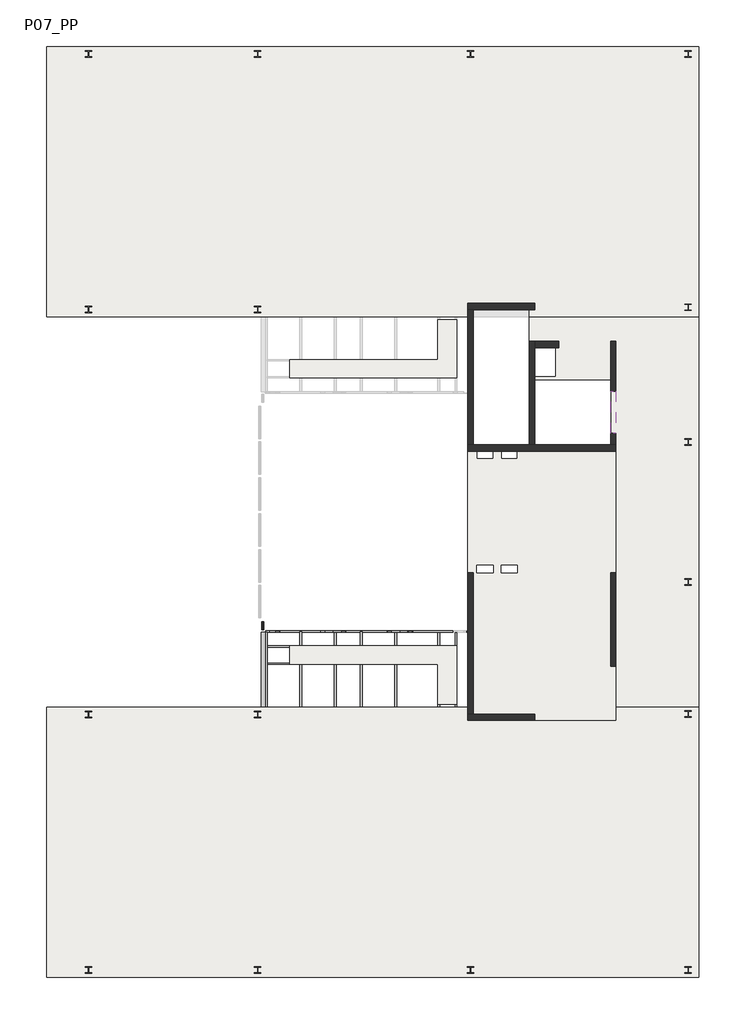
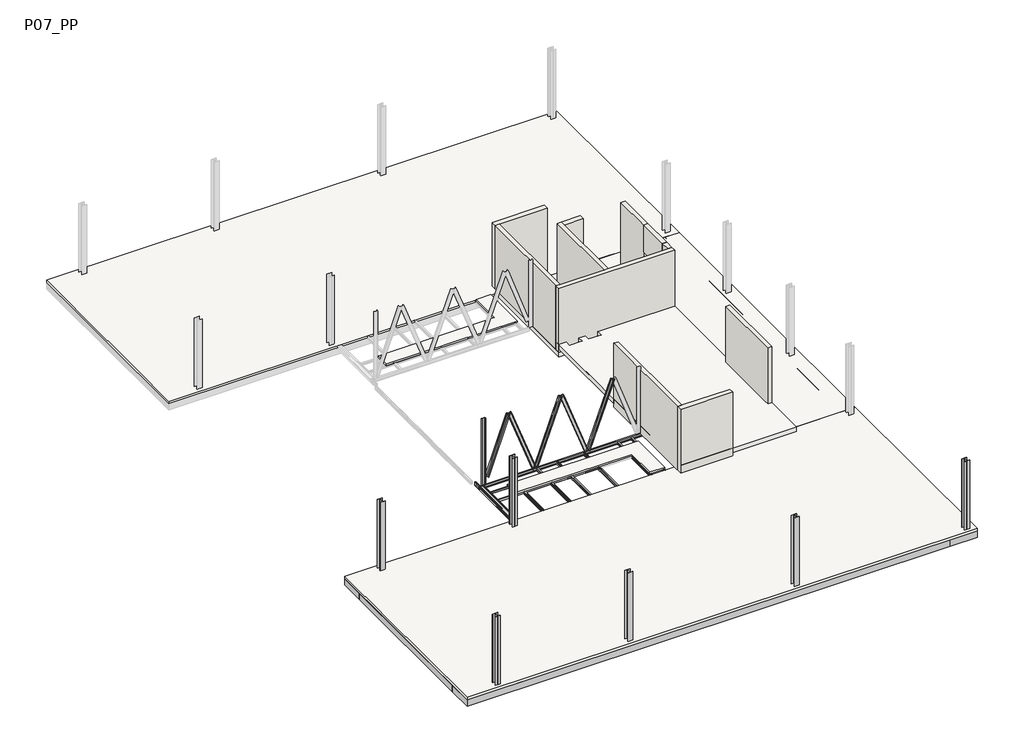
# One storey, part 1 of 2: 43 beams, 11 walls, 7 columns, 5 slabs.
"""IFC4 building model written with IfcOpenShell, lengths in millimetres."""

from ifc_helpers import new_model, si_unit, frame, origin, place, context, project, spatial, polyline, outline, extrude, faceted_brep, transform, mapped, element, save
from components import heb_180x180_772428e8, m_hss_rectangular_hss_200x100_80d761ef, ub_universal_beams_ipe_160x82_5295c27c, ub_universal_beams_ipe_160x82_633517aa, upn120x55_2e91fe93, upn120x55_dd576345, upn120x55_d7d90911, upn200x75_0a6f6e24, upn200x75_24fb99ba, upn200x75_a606ac6d, upn200x75_97ea6d6a, upn200x75_3677b2e3, uc_universal_columns_column_uc300x300x97_0dd95e36, upn_200x75_eb6b664d

model = new_model("IFC4")

# Units and contexts
model_context = context("Model", 3, world=origin())
ifc_project = project(units=[si_unit("LENGTHUNIT", "METRE", prefix="MILLI")], contexts=[model_context])

# Site, building, storey
site = spatial("IfcSite", under=ifc_project)
building = spatial("IfcBuilding", under=site)
storey = spatial("IfcBuildingStorey", under=building, Name="P07_PP", Elevation=33660.0)

# Beams
placement = place(None, origin())
heb_180x180_shape = heb_180x180_772428e8(model_context)
element("IfcBeam", 1, ObjectType="M_HP-Bearing Pile : HEB 180x180", at=placement, inside=storey, context=model_context, shape_type="MappedRepresentation", body=[
    mapped(heb_180x180_shape, transform((-23130.357866, -3177.0866476, 33570.0), x_axis=(0.0, -1.0, 0.0), y_axis=(1.0, 0.0, 0.0), z_axis=(0.0, 0.0, 1.0))),
])
element("IfcBeam", 2, ObjectType="M_Concrete-Rectangular Beam : 1500 x 550mm", at=placement, inside=storey, context=model_context, shape_type="Brep", body=[
    faceted_brep([(-33190.2931093, -6060.5861501, 33110.0), (-32490.2931093, -6060.5861501, 33110.0), (-31216.2708024, -6060.5861501, 33110.0), (-30816.2708024, -6060.5861501, 33110.0), (-29549.6041367, -6060.5861501, 33110.0), (-29149.6041367, -6060.5861501, 33110.0), (-27882.9374731, -6060.5861501, 33110.0), (-27482.9374731, -6060.5861501, 33110.0), (-26216.2708089, -6060.5861501, 33110.0), (-25816.2708089, -6060.5861501, 33110.0), (-24549.6041453, -6060.5861501, 33110.0), (-24149.6041453, -6060.5861501, 33110.0), (-22882.9374805, -6060.5861501, 33110.0), (-22482.9374805, -6060.5861501, 33110.0), (-21216.2708168, -6060.5861501, 33110.0), (-20816.2708168, -6060.5861501, 33110.0), (-19549.6041539, -6060.5861501, 33110.0), (-19149.6041539, -6060.5861501, 33110.0), (-17882.9374898, -6060.5861501, 33110.0), (-17482.9374898, -6060.5861501, 33110.0), (-16216.2708252, -6060.5861501, 33110.0), (-15816.2708252, -6060.5861501, 33110.0), (-14549.604161, -6060.5861501, 33110.0), (-14149.604161, -6060.5861501, 33110.0), (-12882.9374977, -6060.5861501, 33110.0), (-12482.9374977, -6060.5861501, 33110.0), (-11216.2708336, -6060.5861501, 33110.0), (-10816.2708336, -6060.5861501, 33110.0), (-9549.6041702, -6060.5861501, 33110.0), (-9149.6041702, -6060.5861501, 33110.0), (-7882.9375051, -6060.5861501, 33110.0), (-7482.9375051, -6060.5861501, 33110.0), (-6216.2708415, -6060.5861501, 33110.0), (-5816.2708415, -6060.5861501, 33110.0), (-4553.6343046, -6060.5861501, 33110.0), (-2913.6343046, -6060.5861501, 33110.0), (-2913.6343046, -6060.5861501, 33510.0), (-4553.6343046, -6060.5861501, 33510.0), (-5816.2708415, -6060.5861501, 33510.0), (-6216.2708415, -6060.5861501, 33510.0), (-7482.9375051, -6060.5861501, 33510.0), (-7882.9375051, -6060.5861501, 33510.0), (-9149.6041702, -6060.5861501, 33510.0), (-9549.6041702, -6060.5861501, 33510.0), (-10816.2708336, -6060.5861501, 33510.0), (-11216.2708336, -6060.5861501, 33510.0), (-12482.9374977, -6060.5861501, 33510.0), (-12882.9374977, -6060.5861501, 33510.0), (-14149.604161, -6060.5861501, 33510.0), (-14549.604161, -6060.5861501, 33510.0), (-15816.2708252, -6060.5861501, 33510.0), (-16216.2708252, -6060.5861501, 33510.0), (-17482.9374898, -6060.5861501, 33510.0), (-17882.9374898, -6060.5861501, 33510.0), (-19149.6041539, -6060.5861501, 33510.0), (-19549.6041539, -6060.5861501, 33510.0), (-20816.2708168, -6060.5861501, 33510.0), (-21216.2708168, -6060.5861501, 33510.0), (-22482.9374805, -6060.5861501, 33510.0), (-22882.9374805, -6060.5861501, 33510.0), (-24149.6041453, -6060.5861501, 33510.0), (-24549.6041453, -6060.5861501, 33510.0), (-25816.2708089, -6060.5861501, 33510.0), (-26216.2708089, -6060.5861501, 33510.0), (-27482.9374731, -6060.5861501, 33510.0), (-27882.9374731, -6060.5861501, 33510.0), (-29149.6041367, -6060.5861501, 33510.0), (-29549.6041367, -6060.5861501, 33510.0), (-30816.2708024, -6060.5861501, 33510.0), (-31216.2708024, -6060.5861501, 33510.0), (-32490.2931093, -6060.5861501, 33510.0), (-33190.2931093, -6060.5861501, 33510.0), (-33190.2931093, -4560.5861501, 33110.0), (-13640.3216429, -4560.5861501, 33110.0), (-13640.3216429, -5185.1039323, 33110.0), (-10540.3248425, -5185.1039323, 33110.0), (-10540.3248425, -4885.1039323, 33110.0), (-13390.3216429, -4885.1039323, 33110.0), (-13390.3216429, -4560.5861501, 33110.0), (-2913.6343046, -4560.5861501, 33110.0), (-3265.7676522, -5134.9151731, 33110.0), (-3265.767651, -4634.9151731, 33110.0), (-3765.767651, -4634.9151719, 33110.0), (-3765.7676522, -5134.9151719, 33110.0), (-23240.3175914, -5260.1050057, 33110.0), (-23240.3175881, -4760.1050057, 33110.0), (-23740.3175881, -4760.1050023, 33110.0), (-23740.3175914, -5260.1050023, 33110.0), (-30890.3595586, -5260.1050076, 33110.0), (-30890.359557, -4760.1050076, 33110.0), (-31390.359557, -4760.105006, 33110.0), (-31390.3595586, -5260.105006, 33110.0), (-13390.3216429, -4560.5861501, 33359.9777344), (-13640.3216429, -4560.5861501, 33359.9777344), (-33190.2931093, -4560.5861501, 33510.0), (-2913.6343046, -4560.5861501, 33510.0), (-2913.6343046, -4560.5861501, 33360.0), (-3265.7676522, -5134.9151731, 33360.0), (-3265.767651, -4634.9151731, 33360.0), (-3765.7676522, -5134.9151719, 33360.0), (-3765.767651, -4634.9151719, 33360.0), (-23240.3175914, -5260.1050057, 33360.0), (-23240.3175881, -4760.1050057, 33360.0), (-23740.3175914, -5260.1050023, 33360.0), (-23740.3175881, -4760.1050023, 33360.0), (-30890.3595586, -5260.1050076, 33360.0), (-30890.359557, -4760.1050076, 33360.0), (-31390.3595586, -5260.105006, 33360.0), (-31390.359557, -4760.105006, 33360.0), (-10540.3248425, -4885.1039323, 33359.9777344), (-13390.3216429, -4885.1039323, 33359.9777344), (-13640.3216429, -5185.1039323, 33359.9777344), (-10540.3248425, -5185.1039323, 33359.9777344), (-13640.3216429, -4885.1039323, 33359.9777344)], [[[0, 1, 2, 3, 4, 5, 6, 7, 8, 9, 10, 11, 12, 13, 14, 15, 16, 17, 18, 19, 20, 21, 22, 23, 24, 25, 26, 27, 28, 29, 30, 31, 32, 33, 34, 35, 36, 37, 38, 39, 40, 41, 42, 43, 44, 45, 46, 47, 48, 49, 50, 51, 52, 53, 54, 55, 56, 57, 58, 59, 60, 61, 62, 63, 64, 65, 66, 67, 68, 69, 70, 71]], [[0, 72, 73, 74, 75, 76, 77, 78, 79, 35, 34, 33, 32, 31, 30, 29, 28, 27, 26, 25, 24, 23, 22, 21, 20, 19, 18, 17, 16, 15, 14, 13, 12, 11, 10, 9, 8, 7, 6, 5, 4, 3, 2, 1], [80, 81, 82, 83], [84, 85, 86, 87], [88, 89, 90, 91]], [[79, 78, 92, 93, 73, 72, 94, 95, 96]], [[72, 0, 71, 94]], [[35, 79, 96, 95, 36]], [[97, 98, 81, 80]], [[99, 97, 80, 83]], [[100, 99, 83, 82]], [[98, 100, 82, 81]], [[98, 97, 99, 100]], [[101, 102, 85, 84]], [[103, 101, 84, 87]], [[104, 103, 87, 86]], [[102, 104, 86, 85]], [[102, 101, 103, 104]], [[105, 106, 89, 88]], [[107, 105, 88, 91]], [[108, 107, 91, 90]], [[106, 108, 90, 89]], [[106, 105, 107, 108]], [[76, 109, 110, 77]], [[111, 112, 75, 74]], [[112, 111, 113, 93, 92, 110, 109]], [[112, 109, 76, 75]], [[111, 74, 73, 93, 113]], [[110, 92, 78, 77]], [[71, 70, 69, 68, 67, 66, 65, 64, 63, 62, 61, 60, 59, 58, 57, 56, 55, 54, 53, 52, 51, 50, 49, 48, 47, 46, 45, 44, 43, 42, 41, 40, 39, 38, 37, 36, 95, 94]]]),
])
element("IfcBeam", 3, ObjectType="M_Concrete-Rectangular Beam : 1500 x 550mm", at=placement, inside=storey, context=model_context, shape_type="Brep", body=[
    faceted_brep([(-33190.2931093, -17110.5871866, 33110.0), (-4553.6343046, -17110.5871866, 33110.0), (-4553.6343046, -17110.5871866, 33510.0), (-33190.2931093, -17110.5871866, 33510.0), (-33190.2931093, -15610.5871866, 33110.0), (-32490.2931093, -15610.5871866, 33110.0), (-31216.2708024, -15610.5871866, 33110.0), (-30816.2708024, -15610.5871866, 33110.0), (-29549.6041367, -15610.5871866, 33110.0), (-29149.6041367, -15610.5871866, 33110.0), (-27882.9374731, -15610.5871866, 33110.0), (-27482.9374731, -15610.5871866, 33110.0), (-26216.2708089, -15610.5871866, 33110.0), (-25816.2708089, -15610.5871866, 33110.0), (-24549.6041453, -15610.5871866, 33110.0), (-24149.6041453, -15610.5871866, 33110.0), (-22882.9374805, -15610.5871866, 33110.0), (-22482.9374805, -15610.5871866, 33110.0), (-21216.2708168, -15610.5871866, 33110.0), (-20816.2708168, -15610.5871866, 33110.0), (-19549.6041539, -15610.5871866, 33110.0), (-19149.6041539, -15610.5871866, 33110.0), (-17882.9374898, -15610.5871866, 33110.0), (-17482.9374898, -15610.5871866, 33110.0), (-16216.2708252, -15610.5871866, 33110.0), (-15816.2708252, -15610.5871866, 33110.0), (-14549.604161, -15610.5871866, 33110.0), (-14149.604161, -15610.5871866, 33110.0), (-12882.9374977, -15610.5871866, 33110.0), (-12482.9374977, -15610.5871866, 33110.0), (-11216.2708336, -15610.5871866, 33110.0), (-10816.2708336, -15610.5871866, 33110.0), (-9549.6041702, -15610.5871866, 33110.0), (-9149.6041702, -15610.5871866, 33110.0), (-7882.9375051, -15610.5871866, 33110.0), (-7482.9375051, -15610.5871866, 33110.0), (-6216.2708415, -15610.5871866, 33110.0), (-5816.2708415, -15610.5871866, 33110.0), (-4553.6343046, -15610.5871866, 33110.0), (-13265.318426, -16910.1049686, 33110.0), (-13265.318425, -16410.1049686, 33110.0), (-13765.318425, -16410.1049676, 33110.0), (-13765.318426, -16910.1049676, 33110.0), (-23240.1750348, -16910.1046906, 33110.0), (-23240.1750292, -16410.1046906, 33110.0), (-23740.1750292, -16410.104685, 33110.0), (-23740.1750348, -16910.104685, 33110.0), (-30890.3104055, -16910.1054999, 33110.0), (-30890.3104022, -16410.1054999, 33110.0), (-31390.3104022, -16410.1054966, 33110.0), (-31390.3104055, -16910.1054966, 33110.0), (-33190.2931093, -15610.5871866, 33510.0), (-32490.2931093, -15610.5871866, 33510.0), (-31216.2708024, -15610.5871866, 33510.0), (-30816.2708024, -15610.5871866, 33510.0), (-29549.6041367, -15610.5871866, 33510.0), (-29149.6041367, -15610.5871866, 33510.0), (-27882.9374731, -15610.5871866, 33510.0), (-27482.9374731, -15610.5871866, 33510.0), (-26216.2708089, -15610.5871866, 33510.0), (-25816.2708089, -15610.5871866, 33510.0), (-24549.6041453, -15610.5871866, 33510.0), (-24149.6041453, -15610.5871866, 33510.0), (-22882.9374805, -15610.5871866, 33510.0), (-22482.9374805, -15610.5871866, 33510.0), (-21216.2708168, -15610.5871866, 33510.0), (-20816.2708168, -15610.5871866, 33510.0), (-19549.6041539, -15610.5871866, 33510.0), (-19149.6041539, -15610.5871866, 33510.0), (-17882.9374898, -15610.5871866, 33510.0), (-17482.9374898, -15610.5871866, 33510.0), (-16216.2708252, -15610.5871866, 33510.0), (-15816.2708252, -15610.5871866, 33510.0), (-14549.604161, -15610.5871866, 33510.0), (-14149.604161, -15610.5871866, 33510.0), (-12882.9374977, -15610.5871866, 33510.0), (-12482.9374977, -15610.5871866, 33510.0), (-11216.2708336, -15610.5871866, 33510.0), (-10816.2708336, -15610.5871866, 33510.0), (-9549.6041702, -15610.5871866, 33510.0), (-9149.6041702, -15610.5871866, 33510.0), (-7882.9375051, -15610.5871866, 33510.0), (-7482.9375051, -15610.5871866, 33510.0), (-6216.2708415, -15610.5871866, 33510.0), (-5816.2708415, -15610.5871866, 33510.0), (-4553.6343046, -15610.5871866, 33510.0), (-13265.318426, -16910.1049686, 33360.0), (-13265.318425, -16410.1049686, 33360.0), (-13765.318426, -16910.1049676, 33360.0), (-13765.318425, -16410.1049676, 33360.0), (-23240.1750348, -16910.1046906, 33360.0), (-23240.1750292, -16410.1046906, 33360.0), (-23740.1750348, -16910.104685, 33360.0), (-23740.1750292, -16410.104685, 33360.0), (-30890.3104055, -16910.1054999, 33360.0), (-30890.3104022, -16410.1054999, 33360.0), (-31390.3104055, -16910.1054966, 33360.0), (-31390.3104022, -16410.1054966, 33360.0)], [[[0, 1, 2, 3]], [[0, 4, 5, 6, 7, 8, 9, 10, 11, 12, 13, 14, 15, 16, 17, 18, 19, 20, 21, 22, 23, 24, 25, 26, 27, 28, 29, 30, 31, 32, 33, 34, 35, 36, 37, 38, 1], [39, 40, 41, 42], [43, 44, 45, 46], [47, 48, 49, 50]], [[38, 37, 36, 35, 34, 33, 32, 31, 30, 29, 28, 27, 26, 25, 24, 23, 22, 21, 20, 19, 18, 17, 16, 15, 14, 13, 12, 11, 10, 9, 8, 7, 6, 5, 4, 51, 52, 53, 54, 55, 56, 57, 58, 59, 60, 61, 62, 63, 64, 65, 66, 67, 68, 69, 70, 71, 72, 73, 74, 75, 76, 77, 78, 79, 80, 81, 82, 83, 84, 85]], [[4, 0, 3, 51]], [[1, 38, 85, 2]], [[86, 87, 40, 39]], [[88, 86, 39, 42]], [[89, 88, 42, 41]], [[87, 89, 41, 40]], [[87, 86, 88, 89]], [[90, 91, 44, 43]], [[92, 90, 43, 46]], [[93, 92, 46, 45]], [[91, 93, 45, 44]], [[91, 90, 92, 93]], [[94, 95, 48, 47]], [[96, 94, 47, 50]], [[97, 96, 50, 49]], [[95, 97, 49, 48]], [[95, 94, 96, 97]], [[3, 2, 85, 84, 83, 82, 81, 80, 79, 78, 77, 76, 75, 74, 73, 72, 71, 70, 69, 68, 67, 66, 65, 64, 63, 62, 61, 60, 59, 58, 57, 56, 55, 54, 53, 52, 51]]]),
])
element("IfcBeam", 4, ObjectType="M_Concrete-Rectangular Beam : 1640 x 550mm", at=placement, inside=storey, context=model_context, shape_type="Brep", body=[
    faceted_brep([(-4553.6343046, -6060.5861501, 33110.0), (-4553.6343046, -15610.5871866, 33110.0), (-4553.6343046, -17110.5871866, 33110.0), (-4553.6343046, -17110.5871866, 33510.0), (-4553.6343046, -15610.5871866, 33510.0), (-4553.6343046, -6060.5861501, 33510.0), (-2913.6343046, -6060.5861501, 33110.0), (-2913.6343046, -17110.5871866, 33110.0), (-3265.767632, -16910.1049644, 33110.0), (-3265.7676334, -16410.1049644, 33110.0), (-3765.7676334, -16410.1049658, 33110.0), (-3765.767632, -16910.1049658, 33110.0), (-2913.6343046, -6060.5861501, 33510.0), (-2913.6343046, -17110.5871866, 33510.0), (-3265.767632, -16910.1049644, 33360.0), (-3265.7676334, -16410.1049644, 33360.0), (-3765.767632, -16910.1049658, 33360.0), (-3765.7676334, -16410.1049658, 33360.0)], [[[0, 1, 2, 3, 4, 5]], [[0, 6, 7, 2, 1], [8, 9, 10, 11]], [[7, 6, 12, 13]], [[6, 0, 5, 12]], [[2, 7, 13, 3]], [[14, 15, 9, 8]], [[16, 14, 8, 11]], [[17, 16, 11, 10]], [[15, 17, 10, 9]], [[15, 14, 16, 17]], [[5, 4, 3, 13, 12]]]),
])
element("IfcBeam", 5, ObjectType="M_Concrete-Rectangular Beam : 400 x 550mm", at=placement, inside=storey, context=model_context, shape_type="SweptSolid", body=[
    extrude(outline(polyline([(-31216.2708024, -6060.5861501), (-30816.2708024, -6060.5861501), (-30816.2708024, -15610.5871866), (-31216.2708024, -15610.5871866), (-31216.2708024, -6060.5861501)])), frame((0.0, 0.0, 33110.0), z_axis=(0.0, 0.0, 1.0), x_axis=(1.0, 0.0, 0.0)), (0.0, 0.0, 1.0), 400.0),
])
element("IfcBeam", 6, ObjectType="M_Concrete-Rectangular Beam : 400 x 550mm", at=placement, inside=storey, context=model_context, shape_type="SweptSolid", body=[
    extrude(outline(polyline([(-29549.6041367, -6060.5861501), (-29149.6041367, -6060.5861501), (-29149.6041367, -15610.5871866), (-29549.6041367, -15610.5871866), (-29549.6041367, -6060.5861501)])), frame((0.0, 0.0, 33110.0), z_axis=(0.0, 0.0, 1.0), x_axis=(1.0, 0.0, 0.0)), (0.0, 0.0, 1.0), 400.0),
])
element("IfcBeam", 7, ObjectType="M_Concrete-Rectangular Beam : 400 x 550mm", at=placement, inside=storey, context=model_context, shape_type="SweptSolid", body=[
    extrude(outline(polyline([(-27882.9374731, -6060.5861501), (-27482.9374731, -6060.5861501), (-27482.9374731, -15610.5871866), (-27882.9374731, -15610.5871866), (-27882.9374731, -6060.5861501)])), frame((0.0, 0.0, 33110.0), z_axis=(0.0, 0.0, 1.0), x_axis=(1.0, 0.0, 0.0)), (0.0, 0.0, 1.0), 400.0),
])
element("IfcBeam", 8, ObjectType="M_Concrete-Rectangular Beam : 400 x 550mm", at=placement, inside=storey, context=model_context, shape_type="SweptSolid", body=[
    extrude(outline(polyline([(-26216.2708089, -6060.5861501), (-25816.2708089, -6060.5861501), (-25816.2708089, -15610.5871866), (-26216.2708089, -15610.5871866), (-26216.2708089, -6060.5861501)])), frame((0.0, 0.0, 33110.0), z_axis=(0.0, 0.0, 1.0), x_axis=(1.0, 0.0, 0.0)), (0.0, 0.0, 1.0), 400.0),
])
element("IfcBeam", 9, ObjectType="M_Concrete-Rectangular Beam : 400 x 550mm", at=placement, inside=storey, context=model_context, shape_type="SweptSolid", body=[
    extrude(outline(polyline([(-24549.6041453, -6060.5861501), (-24149.6041453, -6060.5861501), (-24149.6041453, -15610.5871866), (-24549.6041453, -15610.5871866), (-24549.6041453, -6060.5861501)])), frame((0.0, 0.0, 33110.0), z_axis=(0.0, 0.0, 1.0), x_axis=(1.0, 0.0, 0.0)), (0.0, 0.0, 1.0), 400.0),
])
element("IfcBeam", 10, ObjectType="M_Concrete-Rectangular Beam : 400 x 550mm", at=placement, inside=storey, context=model_context, shape_type="SweptSolid", body=[
    extrude(outline(polyline([(-22882.9374805, -6060.5861501), (-22482.9374805, -6060.5861501), (-22482.9374805, -15610.5871866), (-22882.9374805, -15610.5871866), (-22882.9374805, -6060.5861501)])), frame((0.0, 0.0, 33110.0), z_axis=(0.0, 0.0, 1.0), x_axis=(1.0, 0.0, 0.0)), (0.0, 0.0, 1.0), 400.0),
])
element("IfcBeam", 11, ObjectType="M_Concrete-Rectangular Beam : 400 x 550mm", at=placement, inside=storey, context=model_context, shape_type="SweptSolid", body=[
    extrude(outline(polyline([(-21216.2708168, -6060.5861501), (-20816.2708168, -6060.5861501), (-20816.2708168, -15610.5871866), (-21216.2708168, -15610.5871866), (-21216.2708168, -6060.5861501)])), frame((0.0, 0.0, 33110.0), z_axis=(0.0, 0.0, 1.0), x_axis=(1.0, 0.0, 0.0)), (0.0, 0.0, 1.0), 400.0),
])
element("IfcBeam", 12, ObjectType="M_Concrete-Rectangular Beam : 400 x 550mm", at=placement, inside=storey, context=model_context, shape_type="SweptSolid", body=[
    extrude(outline(polyline([(-19549.6041539, -6060.5861501), (-19149.6041539, -6060.5861501), (-19149.6041539, -15610.5871866), (-19549.6041539, -15610.5871866), (-19549.6041539, -6060.5861501)])), frame((0.0, 0.0, 33110.0), z_axis=(0.0, 0.0, 1.0), x_axis=(1.0, 0.0, 0.0)), (0.0, 0.0, 1.0), 400.0),
])
element("IfcBeam", 13, ObjectType="M_Concrete-Rectangular Beam : 400 x 550mm", at=placement, inside=storey, context=model_context, shape_type="SweptSolid", body=[
    extrude(outline(polyline([(-17882.9374898, -6060.5861501), (-17482.9374898, -6060.5861501), (-17482.9374898, -15610.5871866), (-17882.9374898, -15610.5871866), (-17882.9374898, -6060.5861501)])), frame((0.0, 0.0, 33110.0), z_axis=(0.0, 0.0, 1.0), x_axis=(1.0, 0.0, 0.0)), (0.0, 0.0, 1.0), 400.0),
])
element("IfcBeam", 14, ObjectType="M_Concrete-Rectangular Beam : 400 x 550mm", at=placement, inside=storey, context=model_context, shape_type="SweptSolid", body=[
    extrude(outline(polyline([(-16216.2708252, -6060.5861501), (-15816.2708252, -6060.5861501), (-15816.2708252, -15610.5871866), (-16216.2708252, -15610.5871866), (-16216.2708252, -6060.5861501)])), frame((0.0, 0.0, 33110.0), z_axis=(0.0, 0.0, 1.0), x_axis=(1.0, 0.0, 0.0)), (0.0, 0.0, 1.0), 400.0),
])
element("IfcBeam", 15, ObjectType="M_Concrete-Rectangular Beam : 400 x 550mm", at=placement, inside=storey, context=model_context, shape_type="SweptSolid", body=[
    extrude(outline(polyline([(-14549.604161, -6060.5861501), (-14149.604161, -6060.5861501), (-14149.604161, -15610.5871866), (-14549.604161, -15610.5871866), (-14549.604161, -6060.5861501)])), frame((0.0, 0.0, 33110.0), z_axis=(0.0, 0.0, 1.0), x_axis=(1.0, 0.0, 0.0)), (0.0, 0.0, 1.0), 400.0),
])
element("IfcBeam", 16, ObjectType="M_Concrete-Rectangular Beam : 400 x 550mm", at=placement, inside=storey, context=model_context, shape_type="SweptSolid", body=[
    extrude(outline(polyline([(-12882.9374977, -6060.5861501), (-12482.9374977, -6060.5861501), (-12482.9374977, -15610.5871866), (-12882.9374977, -15610.5871866), (-12882.9374977, -6060.5861501)])), frame((0.0, 0.0, 33110.0), z_axis=(0.0, 0.0, 1.0), x_axis=(1.0, 0.0, 0.0)), (0.0, 0.0, 1.0), 400.0),
])
element("IfcBeam", 17, ObjectType="M_Concrete-Rectangular Beam : 400 x 550mm", at=placement, inside=storey, context=model_context, shape_type="SweptSolid", body=[
    extrude(outline(polyline([(-11216.2708336, -6060.5861501), (-10816.2708336, -6060.5861501), (-10816.2708336, -15610.5871866), (-11216.2708336, -15610.5871866), (-11216.2708336, -6060.5861501)])), frame((0.0, 0.0, 33110.0), z_axis=(0.0, 0.0, 1.0), x_axis=(1.0, 0.0, 0.0)), (0.0, 0.0, 1.0), 400.0),
])
element("IfcBeam", 18, ObjectType="M_Concrete-Rectangular Beam : 400 x 550mm", at=placement, inside=storey, context=model_context, shape_type="SweptSolid", body=[
    extrude(outline(polyline([(-9549.6041702, -6060.5861501), (-9149.6041702, -6060.5861501), (-9149.6041702, -15610.5871866), (-9549.6041702, -15610.5871866), (-9549.6041702, -6060.5861501)])), frame((0.0, 0.0, 33110.0), z_axis=(0.0, 0.0, 1.0), x_axis=(1.0, 0.0, 0.0)), (0.0, 0.0, 1.0), 400.0),
])
element("IfcBeam", 19, ObjectType="M_Concrete-Rectangular Beam : 400 x 550mm", at=placement, inside=storey, context=model_context, shape_type="SweptSolid", body=[
    extrude(outline(polyline([(-7882.9375051, -6060.5861501), (-7482.9375051, -6060.5861501), (-7482.9375051, -15610.5871866), (-7882.9375051, -15610.5871866), (-7882.9375051, -6060.5861501)])), frame((0.0, 0.0, 33110.0), z_axis=(0.0, 0.0, 1.0), x_axis=(1.0, 0.0, 0.0)), (0.0, 0.0, 1.0), 400.0),
])
element("IfcBeam", 20, ObjectType="M_Concrete-Rectangular Beam : 400 x 550mm", at=placement, inside=storey, context=model_context, shape_type="SweptSolid", body=[
    extrude(outline(polyline([(-6216.2708415, -6060.5861501), (-5816.2708415, -6060.5861501), (-5816.2708415, -15610.5871866), (-6216.2708415, -15610.5871866), (-6216.2708415, -6060.5861501)])), frame((0.0, 0.0, 33110.0), z_axis=(0.0, 0.0, 1.0), x_axis=(1.0, 0.0, 0.0)), (0.0, 0.0, 1.0), 400.0),
])
element("IfcBeam", 21, ObjectType="M_Concrete-Rectangular Beam : 700 x 550mm", at=placement, inside=storey, context=model_context, shape_type="SweptSolid", body=[
    extrude(outline(polyline([(-33190.2931093, -6060.5861501), (-32490.2931093, -6060.5861501), (-32490.2931093, -15610.5871866), (-33190.2931093, -15610.5871866), (-33190.2931093, -6060.5861501)])), frame((0.0, 0.0, 33110.0), z_axis=(0.0, 0.0, 1.0), x_axis=(1.0, 0.0, 0.0)), (0.0, 0.0, 1.0), 400.0),
])
m_hss_rectangular_hss_200x100_shape = m_hss_rectangular_hss_200x100_80d761ef(model_context)
element("IfcBeam", 22, ObjectType="M_HSS Rectangular : HSS 200x100", at=placement, inside=storey, context=model_context, shape_type="MappedRepresentation", body=[
    mapped(m_hss_rectangular_hss_200x100_shape, transform((-23160.3171618, -812.6043939, 33560.0), x_axis=(0.0, -1.0, 0.0), y_axis=(1.0, 0.0, 0.0), z_axis=(0.0, 0.0, 1.0))),
])
ub_universal_beams_ipe_160x82_shape = ub_universal_beams_ipe_160x82_5295c27c(model_context)
element("IfcBeam", 23, ObjectType="UB-Universal Beams : IPE 160x82", at=placement, inside=storey, context=model_context, shape_type="MappedRepresentation", body=[
    mapped(ub_universal_beams_ipe_160x82_shape, transform((-14190.4459331, -3192.6367352, 33580.0), x_axis=(0.0, 1.0, 0.0), y_axis=(-1.0, 0.0, 0.0), z_axis=(0.0, 0.0, 1.0))),
])
element("IfcBeam", 24, ObjectType="UB-Universal Beams : IPE 160x82", at=placement, inside=storey, context=model_context, shape_type="MappedRepresentation", body=[
    mapped(ub_universal_beams_ipe_160x82_shape, transform((-14990.4459326, -3192.6367225, 33580.0), x_axis=(0.0, 1.0, 0.0), y_axis=(-1.0, 0.0, 0.0), z_axis=(0.0, 0.0, 1.0))),
])
element("IfcBeam", 25, ObjectType="UB-Universal Beams : IPE 160x82", at=placement, inside=storey, context=model_context, shape_type="MappedRepresentation", body=[
    mapped(ub_universal_beams_ipe_160x82_shape, transform((-16990.4459316, -3192.6366908, 33580.0), x_axis=(0.0, 1.0, 0.0), y_axis=(-1.0, 0.0, 0.0), z_axis=(0.0, 0.0, 1.0))),
])
element("IfcBeam", 26, ObjectType="UB-Universal Beams : IPE 160x82", at=placement, inside=storey, context=model_context, shape_type="MappedRepresentation", body=[
    mapped(ub_universal_beams_ipe_160x82_shape, transform((-18590.4459308, -3192.6366654, 33580.0), x_axis=(0.0, 1.0, 0.0), y_axis=(-1.0, 0.0, 0.0), z_axis=(0.0, 0.0, 1.0))),
])
element("IfcBeam", 27, ObjectType="UB-Universal Beams : IPE 160x82", at=placement, inside=storey, context=model_context, shape_type="MappedRepresentation", body=[
    mapped(ub_universal_beams_ipe_160x82_shape, transform((-19790.4459314, -3192.6366464, 33580.0), x_axis=(0.0, 1.0, 0.0), y_axis=(-1.0, 0.0, 0.0), z_axis=(0.0, 0.0, 1.0))),
])
element("IfcBeam", 28, ObjectType="UB-Universal Beams : IPE 160x82", at=placement, inside=storey, context=model_context, shape_type="MappedRepresentation", body=[
    mapped(ub_universal_beams_ipe_160x82_shape, transform((-21390.4459306, -3192.636621, 33580.0), x_axis=(0.0, 1.0, 0.0), y_axis=(-1.0, 0.0, 0.0), z_axis=(0.0, 0.0, 1.0))),
])
ub_universal_beams_ipe_160x82_2_shape = ub_universal_beams_ipe_160x82_633517aa(model_context)
element("IfcBeam", 29, ObjectType="UB-Universal Beams : IPE 160x82", at=placement, inside=storey, context=model_context, shape_type="MappedRepresentation", body=[
    mapped(ub_universal_beams_ipe_160x82_2_shape, transform((-22991.1860553, -3192.6365957, 33580.0), x_axis=(0.0, 1.0, 0.0), y_axis=(-1.0, 0.0, 0.0), z_axis=(0.0, 0.0, 1.0))),
])
upn120x55_shape = upn120x55_2e91fe93(model_context)
element("IfcBeam", 30, ObjectType="M_MC Shapes : UPN120x55", at=placement, inside=storey, context=model_context, shape_type="MappedRepresentation", body=[
    mapped(upn120x55_shape, transform((-20590.445931, -2572.1872377, 33600.0), x_axis=(0.9999999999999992, -4.0441322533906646e-08, 0.0), y_axis=(4.0441322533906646e-08, 0.9999999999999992, 0.0), z_axis=(0.0, 0.0, 1.0))),
])
element("IfcBeam", 31, ObjectType="M_MC Shapes : UPN120x55", at=placement, inside=storey, context=model_context, shape_type="MappedRepresentation", body=[
    mapped(upn120x55_shape, transform((-17790.4459312, -2572.1873509, 33600.0), x_axis=(0.9999999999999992, -4.0441322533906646e-08, 0.0), y_axis=(4.0441322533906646e-08, 0.9999999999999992, 0.0), z_axis=(0.0, 0.0, 1.0))),
])
element("IfcBeam", 32, ObjectType="M_MC Shapes : UPN120x55", at=placement, inside=storey, context=model_context, shape_type="MappedRepresentation", body=[
    mapped(upn120x55_shape, transform((-20590.445931, -1772.1872411, 33600.0), x_axis=(0.9999999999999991, -4.319868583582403e-08, 0.0), y_axis=(4.319868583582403e-08, 0.9999999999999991, 0.0), z_axis=(0.0, 0.0, 1.0))),
])
element("IfcBeam", 33, ObjectType="M_MC Shapes : UPN120x55", at=placement, inside=storey, context=model_context, shape_type="MappedRepresentation", body=[
    mapped(upn120x55_shape, transform((-17790.4459312, -1772.1873621, 33600.0), x_axis=(0.9999999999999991, -4.319868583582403e-08, 0.0), y_axis=(4.319868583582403e-08, 0.9999999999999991, 0.0), z_axis=(0.0, 0.0, 1.0))),
])
upn120x55_2_shape = upn120x55_dd576345(model_context)
element("IfcBeam", 34, ObjectType="M_MC Shapes : UPN120x55", at=placement, inside=storey, context=model_context, shape_type="MappedRepresentation", body=[
    mapped(upn120x55_2_shape, transform((-19190.4459311, -2572.1872943, 33600.0), x_axis=(0.9999999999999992, -4.0441322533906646e-08, 0.0), y_axis=(4.0441322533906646e-08, 0.9999999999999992, 0.0), z_axis=(0.0, 0.0, 1.0))),
])
element("IfcBeam", 35, ObjectType="M_MC Shapes : UPN120x55", at=placement, inside=storey, context=model_context, shape_type="MappedRepresentation", body=[
    mapped(upn120x55_2_shape, transform((-19190.4459311, -1772.1873016, 33600.0), x_axis=(0.9999999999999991, -4.319868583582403e-08, 0.0), y_axis=(4.319868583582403e-08, 0.9999999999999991, 0.0), z_axis=(0.0, 0.0, 1.0))),
])
upn120x55_3_shape = upn120x55_d7d90911(model_context)
element("IfcBeam", 36, ObjectType="M_MC Shapes : UPN120x55", at=placement, inside=storey, context=model_context, shape_type="MappedRepresentation", body=[
    mapped(upn120x55_3_shape, transform((-22165.4459321, -2572.187174, 33600.0), x_axis=(0.9999999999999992, -4.0441322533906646e-08, 0.0), y_axis=(4.0441322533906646e-08, 0.9999999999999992, 0.0), z_axis=(0.0, 0.0, 1.0))),
])
element("IfcBeam", 37, ObjectType="M_MC Shapes : UPN120x55", at=placement, inside=storey, context=model_context, shape_type="MappedRepresentation", body=[
    mapped(upn120x55_3_shape, transform((-22165.4459321, -1772.1871731, 33600.0), x_axis=(0.9999999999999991, -4.319868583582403e-08, 0.0), y_axis=(4.319868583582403e-08, 0.9999999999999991, 0.0), z_axis=(0.0, 0.0, 1.0))),
])
upn200x75_shape = upn200x75_0a6f6e24(model_context)
element("IfcBeam", 38, ObjectType="M_MC Shapes : UPN200x75", at=placement, inside=storey, context=model_context, shape_type="MappedRepresentation", body=[
    mapped(upn200x75_shape, transform((-18278.251786, -1021.487191, 33560.0), x_axis=(0.9999999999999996, -3.175673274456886e-08, 0.0), y_axis=(3.175673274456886e-08, 0.9999999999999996, 0.0), z_axis=(0.0, 0.0, 1.0))),
])
upn200x75_2_shape = upn200x75_24fb99ba(model_context)
element("IfcBeam", 39, ObjectType="M_MC Shapes : UPN200x75", at=placement, inside=storey, context=model_context, shape_type="MappedRepresentation", body=[
    mapped(upn200x75_2_shape, transform((-16015.8909414, -1021.4872893, 35660.0), x_axis=(-0.34599906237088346, -1.1215351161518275e-08, -0.9382348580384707), y_axis=(3.2414397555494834e-08, -0.9999999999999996, 0.0), z_axis=(-0.9382348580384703, -3.041231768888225e-08, 0.3459990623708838))),
])
element("IfcBeam", 40, ObjectType="M_MC Shapes : UPN200x75", at=placement, inside=storey, context=model_context, shape_type="MappedRepresentation", body=[
    mapped(upn200x75_2_shape, transform((-19116.7502792, -1021.4872894, 35660.0), x_axis=(-0.3459990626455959, -1.1290382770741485e-08, -0.9382348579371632), y_axis=(3.2631252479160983e-08, -0.9999999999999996, 0.0), z_axis=(-0.9382348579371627, -3.061577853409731e-08, 0.3459990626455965))),
])
upn200x75_3_shape = upn200x75_a606ac6d(model_context)
element("IfcBeam", 41, ObjectType="M_MC Shapes : UPN200x75", at=placement, inside=storey, context=model_context, shape_type="MappedRepresentation", body=[
    mapped(upn200x75_3_shape, transform((-17566.3204105, -1021.4872893, 35660.0), x_axis=(0.34661549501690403, -1.1193818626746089e-08, -0.9380073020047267), y_axis=(3.2294628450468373e-08, 0.9999999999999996, 0.0), z_axis=(0.938007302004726, -3.0292597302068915e-08, 0.3466154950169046))),
])
upn200x75_4_shape = upn200x75_97ea6d6a(model_context)
element("IfcBeam", 42, ObjectType="M_MC Shapes : UPN200x75", at=placement, inside=storey, context=model_context, shape_type="MappedRepresentation", body=[
    mapped(upn200x75_4_shape, transform((-20665.6118231, -1021.4872894, 35660.0), x_axis=(0.3459990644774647, -1.1301768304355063e-08, -0.9382348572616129), y_axis=(3.2664158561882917e-08, 0.9999999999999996, 0.0), z_axis=(0.9382348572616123, -3.0646652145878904e-08, 0.34599906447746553))),
])
upn200x75_5_shape = upn200x75_3677b2e3(model_context)
element("IfcBeam", 43, ObjectType="M_MC Shapes : UPN200x75", at=placement, inside=storey, context=model_context, shape_type="MappedRepresentation", body=[
    mapped(upn200x75_5_shape, transform((-22190.612014, -1021.4872898, 35660.0), x_axis=(-0.336562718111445, -1.1791242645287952e-08, -0.9416610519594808), y_axis=(3.50343101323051e-08, -0.9999999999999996, 0.0), z_axis=(-0.9416610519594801, -3.299044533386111e-08, 0.3365627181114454))),
])

# Columns
uc_universal_columns_column_uc300x300x97_shape = uc_universal_columns_column_uc300x300x97_0dd95e36(model_context)
element("IfcColumn", 44, ObjectType="UC-Universal Columns-Column : UC300x300x97", at=placement, inside=storey, context=model_context, shape_type="MappedRepresentation", body=[
    mapped(uc_universal_columns_column_uc300x300x97_shape, transform((-23391.1836518, -4910.5866652, 0.0), x_axis=(1.0, 0.0, 0.0), y_axis=(0.0, 1.0, 0.0), z_axis=(0.0, 0.0, 1.0))),
])
element("IfcColumn", 45, ObjectType="UC-Universal Columns-Column : UC300x300x97", at=placement, inside=storey, context=model_context, shape_type="MappedRepresentation", body=[
    mapped(uc_universal_columns_column_uc300x300x97_shape, transform((-31241.2256112, -4910.5866694, 0.0), x_axis=(1.0, 3.089615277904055e-09, 0.0), y_axis=(-3.089615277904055e-09, 1.0, 0.0), z_axis=(0.0, 0.0, 1.0))),
])
element("IfcColumn", 46, ObjectType="UC-Universal Columns-Column : UC300x300x97", at=placement, inside=storey, context=model_context, shape_type="MappedRepresentation", body=[
    mapped(uc_universal_columns_column_uc300x300x97_shape, transform((-31241.1764646, -16760.5866427, 0.0), x_axis=(1.0, 0.0, 0.0), y_axis=(0.0, 1.0, 0.0), z_axis=(0.0, 0.0, 1.0))),
])
element("IfcColumn", 47, ObjectType="UC-Universal Columns-Column : UC300x300x97", at=placement, inside=storey, context=model_context, shape_type="MappedRepresentation", body=[
    mapped(uc_universal_columns_column_uc300x300x97_shape, transform((-23391.0410977, -16760.5866357, 0.0), x_axis=(1.0, 0.0, 0.0), y_axis=(0.0, 1.0, 0.0), z_axis=(0.0, 0.0, 1.0))),
])
element("IfcColumn", 48, ObjectType="UC-Universal Columns-Column : UC300x300x97", at=placement, inside=storey, context=model_context, shape_type="MappedRepresentation", body=[
    mapped(uc_universal_columns_column_uc300x300x97_shape, transform((-13515.3183094, -16760.586627, 0.0), x_axis=(1.0, 0.0, 0.0), y_axis=(0.0, 1.0, 0.0), z_axis=(0.0, 0.0, 1.0))),
])
element("IfcColumn", 49, ObjectType="UC-Universal Columns-Column : UC300x300x97", at=placement, inside=storey, context=model_context, shape_type="MappedRepresentation", body=[
    mapped(uc_universal_columns_column_uc300x300x97_shape, transform((-3416.6347426, -16760.5866181, 0.0), x_axis=(1.0, 0.0, 0.0), y_axis=(0.0, 1.0, 0.0), z_axis=(0.0, 0.0, 1.0))),
])
upn_200x75_shape = upn_200x75_eb6b664d(model_context)
element("IfcColumn", 50, ObjectType="M_MC Shapes-Column : UPN 200x75", at=placement, inside=storey, context=model_context, shape_type="MappedRepresentation", body=[
    mapped(upn_200x75_shape, transform((-22940.3175214, -1036.9870429, 0.0), x_axis=(-3.122957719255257e-08, -0.9999999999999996, 0.0), y_axis=(0.9999999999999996, -3.122957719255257e-08, 0.0), z_axis=(0.0, 0.0, 1.0))),
])

# Slabs
element("IfcSlab", 51, ObjectType="Forjat_Llosa-Formigo-300", at=placement, inside=storey, context=model_context, shape_type="SweptSolid", body=[
    extrude(outline(polyline([(-2913.6343046, 13539.4137933), (-2913.6343046, -4560.5857969), (-7015.3241677, -4560.5857969), (-7015.3241677, 7314.8960673), (-13640.2931098, 7314.8960673), (-13640.2931098, 13539.4137933), (-13390.3216429, 13539.4137933), (-13390.3216429, 7614.8960673), (-10790.2146087, 7614.8960673), (-10790.2146087, 13539.4137933), (-2913.6343046, 13539.4137933)]), holes=[polyline([(-7015.3216444, 10594.8839421), (-10540.2146087, 10594.8839421), (-10540.2146087, 7614.8960673), (-7015.3216444, 7614.8960673), (-7015.3216444, 10594.8839421)]), polyline([(-9575.3241515, 12114.8934277), (-10540.2146087, 12114.8934277), (-10540.2146087, 10794.8973525), (-9575.3241515, 10794.8973525), (-9575.3241515, 12114.8934277)])]), frame((0.0, 0.0, 33360.0), z_axis=(0.0, 0.0, 1.0), x_axis=(1.0, 0.0, 0.0)), (0.0, 0.0, 1.0), 300.0),
])
element("IfcSlab", 52, ObjectType="Forjat_Llosa-Formigo-150", at=placement, inside=storey, context=model_context, shape_type="Brep", body=[
    faceted_brep([(-33190.2931069, 13539.4137942, 33510.0), (-33190.2931069, 26089.4138015, 33510.0), (-2913.6343046, 26089.4138015, 33510.0), (-2913.6343046, 15039.4134441, 33510.0), (-2913.6343046, 13539.4137942, 33510.0), (-10790.2146087, 13539.4137942, 33510.0), (-10790.2146087, 13864.8960677, 33510.0), (-13390.3216429, 13864.8960677, 33510.0), (-13390.3216429, 13539.4137942, 33510.0), (-33190.2931069, 26089.4138015, 33660.0), (-33190.2931069, 13539.4137942, 33660.0), (-13390.3216429, 13539.4137942, 33660.0), (-13390.3216429, 13864.8960677, 33660.0), (-10790.2146087, 13864.8960677, 33660.0), (-10790.2146087, 13539.4137942, 33660.0), (-7015.3241677, 13539.4137942, 33660.0), (-6715.3241677, 13539.4137942, 33660.0), (-3763.6343046, 13539.4137942, 33660.0), (-2913.6343046, 13539.4137942, 33660.0), (-2913.6343046, 26089.4138015, 33660.0)], [[[0, 1, 2, 3, 4, 5, 6, 7, 8]], [[9, 10, 11, 12, 13, 14, 15, 16, 17, 18, 19]], [[10, 0, 8, 11]], [[4, 18, 17, 16, 15, 14, 5]], [[1, 0, 10, 9]], [[2, 1, 9, 19]], [[4, 3, 2, 19, 18]], [[6, 13, 12, 7]], [[7, 12, 11, 8]], [[13, 6, 5, 14]]]),
    faceted_brep([(-33190.2931093, -17110.5868311, 33510.0), (-33190.2931093, -15610.5871866, 33510.0), (-33190.2931093, -6060.5861501, 33510.0), (-33190.2931093, -4560.5857933, 33510.0), (-2913.6343046, -4560.5857933, 33510.0), (-2913.6343046, -6060.5861501, 33510.0), (-2913.6343046, -17110.5868311, 33510.0), (-33190.2931093, -4560.5857933, 33660.0), (-33190.2931093, -17110.5868311, 33660.0), (-2913.6343046, -17110.5868311, 33660.0), (-2913.6343046, -4560.5857933, 33660.0), (-3763.6343046, -4560.5857933, 33660.0), (-6715.3241677, -4560.5857933, 33660.0), (-7015.3241677, -4560.5857933, 33660.0)], [[[0, 1, 2, 3, 4, 5, 6]], [[7, 8, 9, 10, 11, 12, 13]], [[3, 2, 1, 0, 8, 7]], [[4, 3, 7, 13, 12, 11, 10]], [[6, 5, 4, 10, 9]], [[0, 6, 9, 8]]]),
])
element("IfcSlab", 53, ObjectType="Forjat_Llosa-Formigo-300", at=placement, inside=storey, context=model_context, shape_type="SweptSolid", body=[
    extrude(outline(polyline([(-6765.3215839, -5185.102383), (-13640.2931098, -5185.102383), (-13640.2931098, 7314.8960673), (-13215.3183723, 7314.8960673), (-13215.3183768, 6964.8891841), (-12465.3183759, 6964.8891848), (-12465.3183704, 7314.8960673), (-12090.3183704, 7314.8960673), (-12090.3183694, 6964.8891882), (-11340.3183722, 6964.8891882), (-11340.3183685, 7314.8960673), (-6765.3215839, 7314.8960673), (-6765.3215839, -5185.102383)]), holes=[polyline([(-12465.317339, 2014.8973051), (-13215.3183744, 2014.8973051), (-13215.3183744, 1664.8968204), (-12465.317339, 1664.8968204), (-12465.317339, 2014.8973051)]), polyline([(-11340.3173363, 2014.8973051), (-12090.3183821, 2014.8973051), (-12090.3183821, 1664.8968204), (-11340.3173363, 1664.8968204), (-11340.3173363, 2014.8973051)])]), frame((0.0, 0.0, 33860.0), z_axis=(0.0, 0.0, 1.0), x_axis=(1.0, 0.0, 0.0)), (0.0, 0.0, 1.0), 300.0),
])
element("IfcSlab", 54, ObjectType="Forjat_Llosa-Relliga-100", at=placement, inside=storey, context=model_context, shape_type="SweptSolid", body=[
    extrude(outline(polyline([(-21915.4459309, -2583.0874625), (-21915.4459314, -1728.0871839), (-14149.4459331, -1728.0871839), (-14149.4459331, -4439.621344), (-15031.4459326, -4439.621344), (-15031.4459326, -2583.0874625), (-21915.4459309, -2583.0874625)])), frame((0.0, 0.0, 33660.0), z_axis=(0.0, 0.0, 1.0), x_axis=(1.0, 0.0, 0.0)), (0.0, 0.0, 1.0), 100.0),
])
element("IfcSlab", 55, ObjectType="Forjat_Llosa-Relliga-100", at=placement, inside=storey, context=model_context, shape_type="SweptSolid", body=[
    extrude(outline(polyline([(-21915.4459309, 11562.8793206), (-15031.4459326, 11562.8793206), (-15031.4459326, 13419.4132021), (-14149.4459331, 13419.4132021), (-14149.4459331, 10707.879042), (-21915.4459314, 10707.879042), (-21915.4459309, 11562.8793206)])), frame((0.0, 0.0, 33660.0), z_axis=(0.0, 0.0, 1.0), x_axis=(1.0, 0.0, 0.0)), (0.0, 0.0, 1.0), 100.0),
])

# Walls
element("IfcWall", 56, ObjectType="0_Muro Concreto_250", at=placement, inside=storey, context=model_context, shape_type="SweptSolid", body=[
    extrude(outline(polyline([(-13640.3216429, 7614.8960673), (-13640.3216429, 13864.8960687), (-13390.3216429, 13864.8960687), (-13390.3216429, 7614.8960673), (-13640.3216429, 7614.8960673)])), frame((0.0, 0.0, 33660.0), z_axis=(0.0, 0.0, 1.0), x_axis=(1.0, 0.0, 0.0)), (0.0, 0.0, 1.0), 4000.0),
])
element("IfcWall", 57, ObjectType="0_Muro Concreto_250", at=placement, inside=storey, context=model_context, shape_type="Brep", body=[
    faceted_brep([(-10790.2146087, 12414.8934136, 33660.0), (-10790.2146087, 7614.8960673, 33660.0), (-10790.2146087, 7614.8960673, 37660.0), (-10790.2146087, 12414.8934136, 37660.0), (-10540.2146087, 12414.8934136, 33660.0), (-10540.2146087, 12414.8934136, 37660.0), (-10540.2146087, 12114.8934136, 37660.0), (-10540.2146087, 7614.8960673, 37660.0), (-10540.2146087, 7614.8960673, 33660.0), (-10540.2146087, 12114.8934136, 33660.0)], [[[0, 1, 2, 3]], [[4, 5, 6, 7, 8, 9]], [[1, 0, 4, 9, 8]], [[3, 2, 7, 6, 5]], [[2, 1, 8, 7]], [[0, 3, 5, 4]]]),
])
element("IfcWall", 58, ObjectType="0_Muro Concreto_250", at=placement, inside=storey, context=model_context, shape_type="SweptSolid", body=[
    extrude(outline(polyline([(-13390.3216429, 1664.8968204), (-13390.3216429, -4885.1039323), (-13640.3216429, -4885.1039323), (-13640.3216429, 1664.8968204), (-13390.3216429, 1664.8968204)])), frame((0.0, 0.0, 33660.0), z_axis=(0.0, 0.0, 1.0), x_axis=(1.0, 0.0, 0.0)), (0.0, 0.0, 1.0), 4000.0),
])
element("IfcWall", 59, ObjectType="0_Muro Concreto_250", at=placement, inside=storey, context=model_context, shape_type="SweptSolid", body=[
    extrude(outline(polyline([(-7015.3215909, 10084.2914836), (-7015.3215886, 12414.8934351), (-6765.3215886, 12414.8934349), (-6765.3215909, 10084.2914833), (-7015.3215909, 10084.2914836)])), frame((0.0, 0.0, 33660.0), z_axis=(0.0, 0.0, 1.0), x_axis=(1.0, 0.0, 0.0)), (0.0, 0.0, 1.0), 4000.0),
])
element("IfcWall", 60, ObjectType="0_Muro Concreto_250", at=placement, inside=storey, context=model_context, shape_type="SweptSolid", body=[
    extrude(outline(polyline([(-7015.3216444, 7614.8960673), (-7015.3216444, 8144.2911718), (-6765.3216444, 8144.2911718), (-6765.3216444, 7614.8960673), (-7015.3216444, 7614.8960673)])), frame((0.0, 0.0, 33660.0), z_axis=(0.0, 0.0, 1.0), x_axis=(1.0, 0.0, 0.0)), (0.0, 0.0, 1.0), 4000.0),
])
element("IfcWall", 61, ObjectType="0_Muro Concreto_250", at=placement, inside=storey, context=model_context, shape_type="SweptSolid", body=[
    extrude(outline(polyline([(-6765.3247837, 1664.8968204), (-6765.3247837, -2665.1031332), (-7015.3247837, -2665.1031332), (-7015.3247837, 1664.8968204), (-6765.3247837, 1664.8968204)])), frame((0.0, 0.0, 33660.0), z_axis=(0.0, 0.0, 1.0), x_axis=(1.0, 0.0, 0.0)), (0.0, 0.0, 1.0), 200.0),
    extrude(outline(polyline([(-6765.3247837, 1664.8968204), (-6765.3247837, -2665.1031332), (-7015.3247837, -2665.1031332), (-7015.3247837, 1664.8968204), (-6765.3247837, 1664.8968204)])), frame((0.0, 0.0, 34160.0), z_axis=(0.0, 0.0, 1.0), x_axis=(1.0, 0.0, 0.0)), (0.0, 0.0, 1.0), 3500.0),
])
element("IfcWall", 62, ObjectType="0_Muro Concreto_250", at=placement, inside=storey, context=model_context, shape_type="SweptSolid", body=[
    extrude(outline(polyline([(-7015.3216444, 8144.2911719), (-7015.3216444, 10084.2914835), (-6765.3216444, 10084.2914835), (-6765.3216444, 8144.2911719), (-7015.3216444, 8144.2911719)])), frame((0.0, 0.0, 35960.0), z_axis=(0.0, 0.0, 1.0), x_axis=(1.0, 0.0, 0.0)), (0.0, 0.0, 1.0), 1700.0),
])
element("IfcWall", 63, ObjectType="0_Muro Concreto_300", at=placement, inside=storey, context=model_context, shape_type="Brep", body=[
    faceted_brep([(-6768.0437821, 7614.8960673, 33660.0), (-10540.2146087, 7614.8960673, 33660.0), (-10790.2146087, 7614.8960673, 33660.0), (-13390.3216429, 7614.8960673, 33660.0), (-13640.3216429, 7614.8960673, 33660.0), (-13640.3216429, 7614.8960673, 37660.0), (-13390.3216429, 7614.8960673, 37660.0), (-10790.2146087, 7614.8960673, 37660.0), (-10540.2146087, 7614.8960673, 37660.0), (-6768.0437821, 7614.8960673, 37660.0), (-6768.0437821, 7314.8960673, 33660.0), (-6768.0437821, 7314.8960673, 37660.0), (-13640.3216429, 7314.8960673, 37660.0), (-13640.3216429, 7314.8960673, 33660.0)], [[[0, 1, 2, 3, 4, 5, 6, 7, 8, 9]], [[10, 11, 12, 13]], [[4, 3, 2, 1, 0, 10, 13]], [[9, 8, 7, 6, 5, 12, 11]], [[0, 9, 11, 10]], [[5, 4, 13, 12]]]),
])
element("IfcWall", 64, ObjectType="0_Muro Concreto_300", at=placement, inside=storey, context=model_context, shape_type="Brep", body=[
    faceted_brep([(-10540.3248355, 14164.8960687, 33660.0), (-13640.3216429, 14164.8960687, 33660.0), (-13640.3216429, 14164.8960687, 37660.0), (-10540.3248355, 14164.8960687, 37660.0), (-10540.3248355, 13864.8960687, 33660.0), (-10540.3248355, 13864.8960687, 37660.0), (-13390.3216429, 13864.8960687, 37660.0), (-13640.3216429, 13864.8960687, 37660.0), (-13640.3216429, 13864.8960687, 33660.0), (-13390.3216429, 13864.8960687, 33660.0)], [[[0, 1, 2, 3]], [[4, 5, 6, 7, 8, 9]], [[1, 0, 4, 9, 8]], [[3, 2, 7, 6, 5]], [[0, 3, 5, 4]], [[2, 1, 8, 7]]]),
])
element("IfcWall", 65, ObjectType="0_Muro Concreto_300", at=placement, inside=storey, context=model_context, shape_type="SweptSolid", body=[
    extrude(outline(polyline([(-9415.5635412, 12114.8934136), (-10540.2146087, 12114.8934136), (-10540.2146087, 12414.8934136), (-9415.5635412, 12414.8934136), (-9415.5635412, 12114.8934136)])), frame((0.0, 0.0, 33660.0), z_axis=(0.0, 0.0, 1.0), x_axis=(1.0, 0.0, 0.0)), (0.0, 0.0, 1.0), 4000.0),
])
element("IfcWall", 66, ObjectType="0_Muro Concreto_300", at=placement, inside=storey, context=model_context, shape_type="Brep", body=[
    faceted_brep([(-10540.3248425, -4885.1039323, 33660.0), (-13390.3216429, -4885.1039323, 33660.0), (-13640.3216429, -4885.1039323, 33660.0), (-13640.3216429, -4885.1039323, 37660.0), (-13390.3216429, -4885.1039323, 37660.0), (-10540.3248425, -4885.1039323, 37660.0), (-10540.3248425, -5185.1039323, 33660.0), (-10540.3248425, -5185.1039323, 37660.0), (-13640.3216429, -5185.1039323, 37660.0), (-13640.3216429, -5185.1039323, 33660.0)], [[[0, 1, 2, 3, 4, 5]], [[6, 7, 8, 9]], [[2, 1, 0, 6, 9]], [[5, 4, 3, 8, 7]], [[0, 5, 7, 6]], [[3, 2, 9, 8]]]),
])

save(model, "model.ifc")
